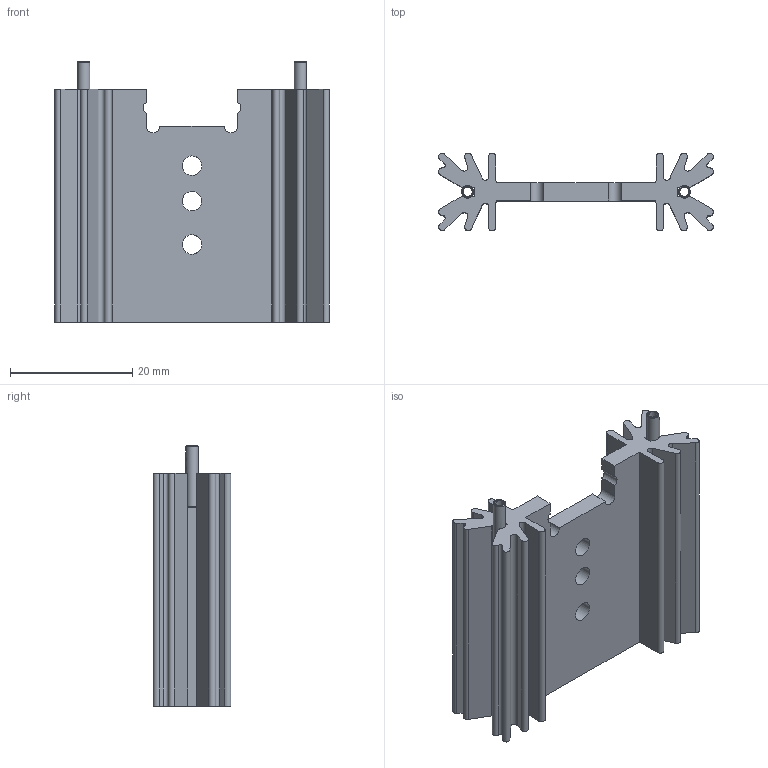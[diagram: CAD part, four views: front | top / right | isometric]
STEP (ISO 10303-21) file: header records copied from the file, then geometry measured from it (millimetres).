
FILE_DESCRIPTION((''),'2;1');
FILE_NAME('O:\Internetdaten\f.cool\Kapitel A\Strangkühlkörper für Leiterplattenmontage\STEP\SK_409_38.1_STS.stp','2013-11-15T13:26:42',('lochen'),(''),'Autodesk Inventor 2012','Autodesk Inventor 2012','');
FILE_SCHEMA(('AUTOMOTIVE_DESIGN { 1 0 10303 214 1 1 1 1 }'));
Length unit declared in the file: millimetre
Products named in the file (3): SK_409_38; 001020009; A9001B20100008S
Assembly tree (3 placements, depth 2):
  SK_409_38
    001020009
    A9001B20100008S  x2
Bounding box: 45 x 12.7 x 42.6 mm (x, y, z)
Volume: 7902.8 mm3; surface area: 8120.1 mm2
Topology: 3 solids, 3 shells, 207 faces, 603 edges, 402 vertices
Faces by surface type: plane 104, cylinder 99, torus 4
Full cylindrical faces by diameter (mm): 3.2 x3
Entity records: 5644 total; most frequent: CARTESIAN_POINT 1601, ORIENTED_EDGE 852, DIRECTION 824, EDGE_CURVE 426, AXIS2_PLACEMENT_3D 301, VERTEX_POINT 286, VECTOR 222, LINE 222
